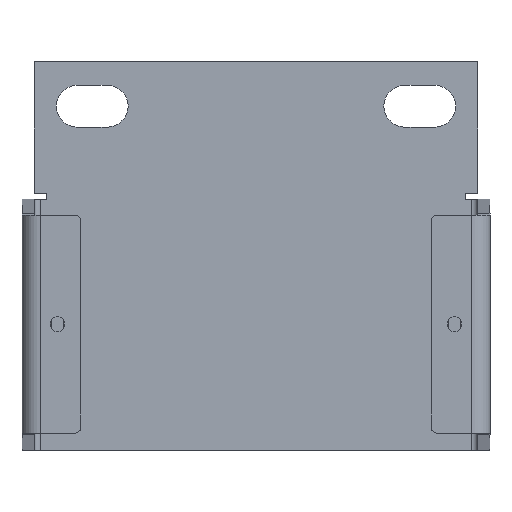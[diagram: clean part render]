
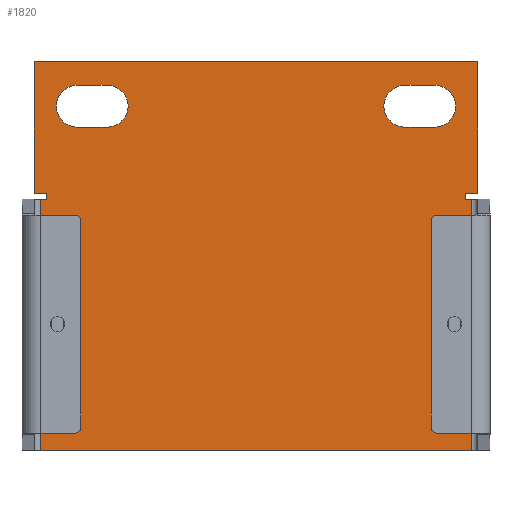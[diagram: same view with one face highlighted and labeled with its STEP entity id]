
A CAD part, top view. The second image highlights one B-rep face of the part: STEP entity #1820.
In plain terms, the highlighted planar face has unit normal (0, 0, 1).
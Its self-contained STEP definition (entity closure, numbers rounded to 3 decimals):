
#20=FACE_BOUND('',#238,.T.);
#21=FACE_BOUND('',#239,.T.);
#35=PLANE('',#1957);
#123=FACE_OUTER_BOUND('',#237,.T.);
#237=EDGE_LOOP('',(#1304,#1305,#1306,#1307,#1308,#1309,#1310,#1311,#1312,
#1313,#1314,#1315));
#238=EDGE_LOOP('',(#1316,#1317,#1318,#1319));
#239=EDGE_LOOP('',(#1320,#1321,#1322,#1323));
#388=LINE('',#2761,#598);
#389=LINE('',#2763,#599);
#390=LINE('',#2765,#600);
#391=LINE('',#2767,#601);
#392=LINE('',#2769,#602);
#393=LINE('',#2771,#603);
#394=LINE('',#2773,#604);
#395=LINE('',#2775,#605);
#396=LINE('',#2777,#606);
#397=LINE('',#2779,#607);
#398=LINE('',#2781,#608);
#399=LINE('',#2782,#609);
#400=LINE('',#2786,#610);
#401=LINE('',#2787,#611);
#402=LINE('',#2791,#612);
#403=LINE('',#2792,#613);
#598=VECTOR('',#2189,1000.);
#599=VECTOR('',#2190,1000.);
#600=VECTOR('',#2191,1000.);
#601=VECTOR('',#2192,1000.);
#602=VECTOR('',#2193,1000.);
#603=VECTOR('',#2194,1000.);
#604=VECTOR('',#2195,1000.);
#605=VECTOR('',#2196,1000.);
#606=VECTOR('',#2197,1000.);
#607=VECTOR('',#2198,1000.);
#608=VECTOR('',#2199,1000.);
#609=VECTOR('',#2200,1000.);
#610=VECTOR('',#2203,1000.);
#611=VECTOR('',#2204,1000.);
#612=VECTOR('',#2207,1000.);
#613=VECTOR('',#2208,1000.);
#773=CIRCLE('',#1943,3.505);
#777=CIRCLE('',#1949,3.505);
#780=CIRCLE('',#1958,3.505);
#781=CIRCLE('',#1959,3.505);
#830=VERTEX_POINT('',#2671);
#831=VERTEX_POINT('',#2673);
#836=VERTEX_POINT('',#2686);
#837=VERTEX_POINT('',#2688);
#866=VERTEX_POINT('',#2759);
#867=VERTEX_POINT('',#2760);
#868=VERTEX_POINT('',#2762);
#869=VERTEX_POINT('',#2764);
#870=VERTEX_POINT('',#2766);
#871=VERTEX_POINT('',#2768);
#872=VERTEX_POINT('',#2770);
#873=VERTEX_POINT('',#2772);
#874=VERTEX_POINT('',#2774);
#875=VERTEX_POINT('',#2776);
#876=VERTEX_POINT('',#2778);
#877=VERTEX_POINT('',#2780);
#878=VERTEX_POINT('',#2783);
#879=VERTEX_POINT('',#2784);
#880=VERTEX_POINT('',#2788);
#881=VERTEX_POINT('',#2789);
#987=EDGE_CURVE('',#831,#830,#773,.T.);
#994=EDGE_CURVE('',#836,#837,#777,.T.);
#1030=EDGE_CURVE('',#866,#867,#388,.T.);
#1031=EDGE_CURVE('',#868,#866,#389,.T.);
#1032=EDGE_CURVE('',#868,#869,#390,.T.);
#1033=EDGE_CURVE('',#870,#869,#391,.T.);
#1034=EDGE_CURVE('',#871,#870,#392,.T.);
#1035=EDGE_CURVE('',#871,#872,#393,.T.);
#1036=EDGE_CURVE('',#872,#873,#394,.T.);
#1037=EDGE_CURVE('',#873,#874,#395,.T.);
#1038=EDGE_CURVE('',#874,#875,#396,.T.);
#1039=EDGE_CURVE('',#875,#876,#397,.T.);
#1040=EDGE_CURVE('',#877,#876,#398,.T.);
#1041=EDGE_CURVE('',#867,#877,#399,.T.);
#1042=EDGE_CURVE('',#878,#879,#780,.T.);
#1043=EDGE_CURVE('',#879,#831,#400,.T.);
#1044=EDGE_CURVE('',#830,#878,#401,.T.);
#1045=EDGE_CURVE('',#880,#881,#781,.T.);
#1046=EDGE_CURVE('',#837,#880,#402,.T.);
#1047=EDGE_CURVE('',#881,#836,#403,.T.);
#1304=ORIENTED_EDGE('',*,*,#1030,.F.);
#1305=ORIENTED_EDGE('',*,*,#1031,.F.);
#1306=ORIENTED_EDGE('',*,*,#1032,.T.);
#1307=ORIENTED_EDGE('',*,*,#1033,.F.);
#1308=ORIENTED_EDGE('',*,*,#1034,.F.);
#1309=ORIENTED_EDGE('',*,*,#1035,.T.);
#1310=ORIENTED_EDGE('',*,*,#1036,.T.);
#1311=ORIENTED_EDGE('',*,*,#1037,.T.);
#1312=ORIENTED_EDGE('',*,*,#1038,.T.);
#1313=ORIENTED_EDGE('',*,*,#1039,.T.);
#1314=ORIENTED_EDGE('',*,*,#1040,.F.);
#1315=ORIENTED_EDGE('',*,*,#1041,.F.);
#1316=ORIENTED_EDGE('',*,*,#1042,.T.);
#1317=ORIENTED_EDGE('',*,*,#1043,.T.);
#1318=ORIENTED_EDGE('',*,*,#987,.T.);
#1319=ORIENTED_EDGE('',*,*,#1044,.T.);
#1320=ORIENTED_EDGE('',*,*,#1045,.F.);
#1321=ORIENTED_EDGE('',*,*,#1046,.F.);
#1322=ORIENTED_EDGE('',*,*,#994,.F.);
#1323=ORIENTED_EDGE('',*,*,#1047,.F.);
#1820=ADVANCED_FACE('',(#123,#20,#21),#35,.T.);
#1943=AXIS2_PLACEMENT_3D('',#2674,#2123,#2124);
#1949=AXIS2_PLACEMENT_3D('',#2689,#2138,#2139);
#1957=AXIS2_PLACEMENT_3D('',#2758,#2187,#2188);
#1958=AXIS2_PLACEMENT_3D('',#2785,#2201,#2202);
#1959=AXIS2_PLACEMENT_3D('',#2790,#2205,#2206);
#2123=DIRECTION('center_axis',(0.,0.,-1.));
#2124=DIRECTION('ref_axis',(-1.,0.,0.));
#2138=DIRECTION('center_axis',(0.,0.,1.));
#2139=DIRECTION('ref_axis',(1.,0.,0.));
#2187=DIRECTION('center_axis',(0.,0.,1.));
#2188=DIRECTION('ref_axis',(1.,0.,0.));
#2189=DIRECTION('',(0.,-1.,0.));
#2190=DIRECTION('',(-1.,0.,0.));
#2191=DIRECTION('',(0.,1.,0.));
#2192=DIRECTION('',(1.,0.,0.));
#2193=DIRECTION('',(0.,1.,0.));
#2194=DIRECTION('',(1.,0.,0.));
#2195=DIRECTION('',(0.,-1.,0.));
#2196=DIRECTION('',(-1.,0.,0.));
#2197=DIRECTION('',(0.,-1.,0.));
#2198=DIRECTION('',(1.,0.,0.));
#2199=DIRECTION('',(0.,-1.,0.));
#2200=DIRECTION('',(1.,0.,0.));
#2201=DIRECTION('center_axis',(0.,0.,-1.));
#2202=DIRECTION('ref_axis',(1.,0.,0.));
#2203=DIRECTION('',(-1.,0.,0.));
#2204=DIRECTION('',(1.,0.,0.));
#2205=DIRECTION('center_axis',(0.,0.,1.));
#2206=DIRECTION('ref_axis',(-1.,0.,0.));
#2207=DIRECTION('',(-1.,0.,0.));
#2208=DIRECTION('',(1.,0.,0.));
#2671=CARTESIAN_POINT('',(-29.921,-3.912,2.032));
#2673=CARTESIAN_POINT('',(-29.921,-10.922,2.032));
#2674=CARTESIAN_POINT('Origin',(-29.921,-7.417,2.032));
#2686=CARTESIAN_POINT('',(29.921,-10.922,2.032));
#2688=CARTESIAN_POINT('',(29.921,-3.912,2.032));
#2689=CARTESIAN_POINT('Origin',(29.921,-7.417,2.032));
#2758=CARTESIAN_POINT('Origin',(0.,-64.999,2.032));
#2759=CARTESIAN_POINT('',(35.116,-21.971,2.032));
#2760=CARTESIAN_POINT('',(35.116,-22.987,2.032));
#2761=CARTESIAN_POINT('',(35.116,-21.971,2.032));
#2762=CARTESIAN_POINT('',(37.148,-21.971,2.032));
#2763=CARTESIAN_POINT('',(37.148,-21.971,2.032));
#2764=CARTESIAN_POINT('',(37.148,0.,2.032));
#2765=CARTESIAN_POINT('',(37.148,-64.999,2.032));
#2766=CARTESIAN_POINT('',(-37.148,0.,2.032));
#2767=CARTESIAN_POINT('',(0.,0.,2.032));
#2768=CARTESIAN_POINT('',(-37.148,-21.971,2.032));
#2769=CARTESIAN_POINT('',(-37.148,-64.999,2.032));
#2770=CARTESIAN_POINT('',(-35.116,-21.971,2.032));
#2771=CARTESIAN_POINT('',(-37.148,-21.971,2.032));
#2772=CARTESIAN_POINT('',(-35.116,-22.987,2.032));
#2773=CARTESIAN_POINT('',(-35.116,-21.971,2.032));
#2774=CARTESIAN_POINT('',(-36.132,-22.987,2.032));
#2775=CARTESIAN_POINT('',(-35.116,-22.987,2.032));
#2776=CARTESIAN_POINT('',(-36.132,-64.999,2.032));
#2777=CARTESIAN_POINT('',(-36.132,-22.987,2.032));
#2778=CARTESIAN_POINT('',(36.132,-64.999,2.032));
#2779=CARTESIAN_POINT('',(0.,-64.999,2.032));
#2780=CARTESIAN_POINT('',(36.132,-22.987,2.032));
#2781=CARTESIAN_POINT('',(36.132,-22.987,2.032));
#2782=CARTESIAN_POINT('',(35.116,-22.987,2.032));
#2783=CARTESIAN_POINT('',(-24.917,-3.912,2.032));
#2784=CARTESIAN_POINT('',(-24.917,-10.922,2.032));
#2785=CARTESIAN_POINT('Origin',(-24.917,-7.417,2.032));
#2786=CARTESIAN_POINT('',(-24.917,-10.922,2.032));
#2787=CARTESIAN_POINT('',(-24.917,-3.912,2.032));
#2788=CARTESIAN_POINT('',(24.917,-3.912,2.032));
#2789=CARTESIAN_POINT('',(24.917,-10.922,2.032));
#2790=CARTESIAN_POINT('Origin',(24.917,-7.417,2.032));
#2791=CARTESIAN_POINT('',(24.917,-3.912,2.032));
#2792=CARTESIAN_POINT('',(24.917,-10.922,2.032));
